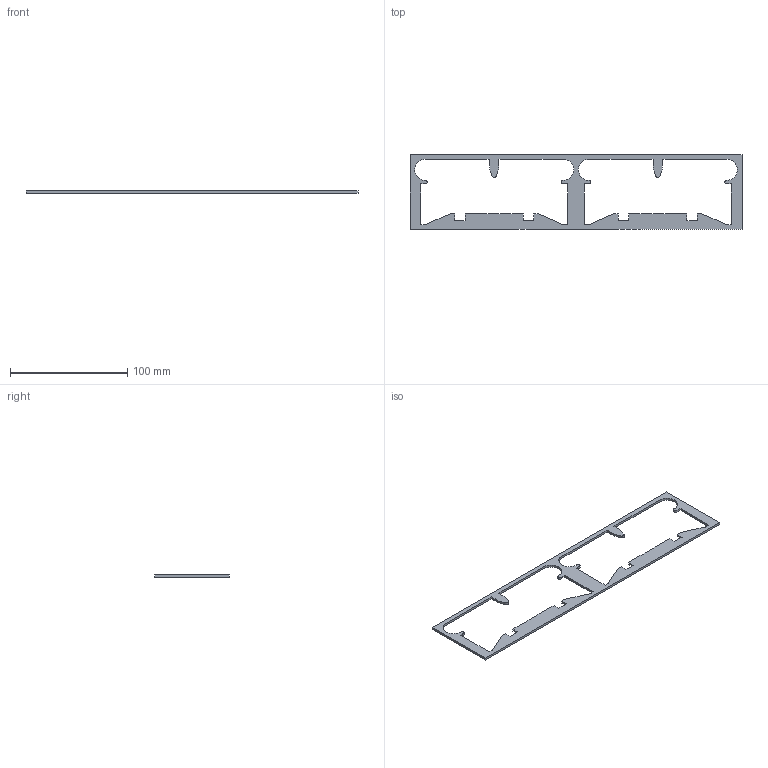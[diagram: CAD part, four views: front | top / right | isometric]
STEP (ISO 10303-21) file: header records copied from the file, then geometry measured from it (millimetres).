
FILE_DESCRIPTION(('CATIA V5 STEP Exchange'),'2;1');
FILE_NAME('G:\Pince Molly Internet\Industrialisation des Produits\TP1\Maquette numérique\CATIA\tole 2 a.stp','2009-12-22T09:50:14+00:00',('none'),('none'),'CATIA Version 5 Release 16 (IN-10)','CATIA V5 STEP AP203','none');
FILE_SCHEMA(('CONFIG_CONTROL_DESIGN'));
Length unit declared in the file: millimetre
Products named in the file (1): tole 2 a
Bounding box: 283.42 x 64 x 2 mm (x, y, z)
Volume: 11503.3 mm3; surface area: 14657.5 mm2
Topology: 1 solids, 1 shells, 106 faces, 312 edges, 208 vertices
Faces by surface type: plane 84, cylinder 14, extrusion 8
Entity records: 3935 total; most frequent: CARTESIAN_POINT 1144, ORIENTED_EDGE 624, DIRECTION 472, EDGE_CURVE 312, VECTOR 276, LINE 268, VERTEX_POINT 208, EDGE_LOOP 110
